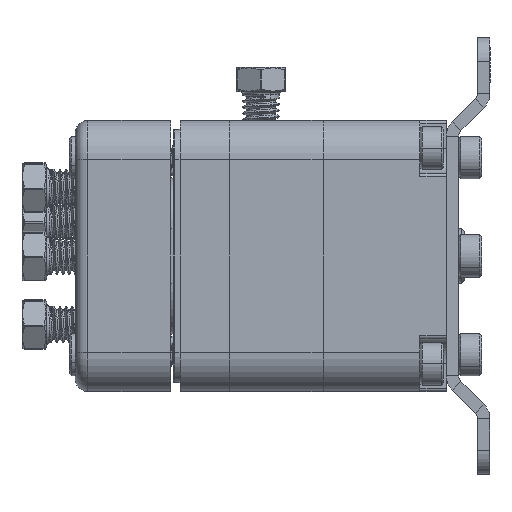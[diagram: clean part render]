
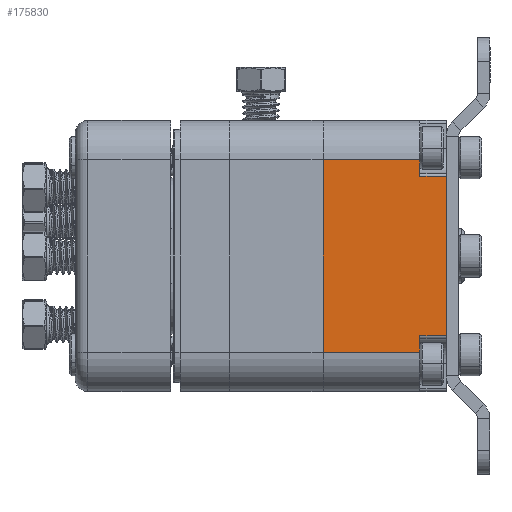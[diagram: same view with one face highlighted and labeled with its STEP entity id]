
A CAD part, left-side view. The second image highlights one B-rep face of the part: STEP entity #175830.
In plain terms, the highlighted planar face has unit normal (-1, 0, 0).
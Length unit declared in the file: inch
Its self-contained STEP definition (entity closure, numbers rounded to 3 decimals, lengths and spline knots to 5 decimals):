
#929 = CARTESIAN_POINT ( 'NONE',  ( -2.78125, -0.774, -0.4875 ) ) ;
#6849 = EDGE_CURVE ( 'Defeatured_0_628+Defeatured_0_619+Defeatured_0_604+Defeatured_0_635', #54828, #109684, #162797, .T. ) ;
#12913 = VERTEX_POINT ( 'NONE', #138600 ) ;
#15770 = CARTESIAN_POINT ( 'NONE',  ( -2.78125, -1.399, 0.4875 ) ) ;
#17844 = DIRECTION ( 'NONE',  ( 0., 1., 0. ) ) ;
#28853 = LINE ( 'NONE', #15770, #31670 ) ;
#29115 = DIRECTION ( 'NONE',  ( 0., 0., 1. ) ) ;
#31670 = VECTOR ( 'NONE', #48626, 39.37008 ) ;
#33818 = VERTEX_POINT ( 'NONE', #194200 ) ;
#38285 = LINE ( 'NONE', #138159, #41066 ) ;
#40847 = ORIENTED_EDGE ( 'NONE', *, *, #152698, .T. ) ;
#41066 = VECTOR ( 'NONE', #154378, 39.37008 ) ;
#42499 = CARTESIAN_POINT ( 'NONE',  ( -2.78125, -1.399, -0.6875 ) ) ;
#44136 = ORIENTED_EDGE ( 'NONE', *, *, #44265, .T. ) ;
#44265 = EDGE_CURVE ( 'Defeatured_0_628+Defeatured_0_641+Defeatured_0_635+Defeatured_0_634', #33818, #189119, #38285, .T. ) ;
#48626 = DIRECTION ( 'NONE',  ( 0., 1., 0. ) ) ;
#54828 = VERTEX_POINT ( 'NONE', #66883 ) ;
#64168 = VECTOR ( 'NONE', #133172, 39.37008 ) ;
#66883 = CARTESIAN_POINT ( 'NONE',  ( -2.78125, -1.26526, 0.40392 ) ) ;
#68018 = CARTESIAN_POINT ( 'NONE',  ( -2.78125, -1.399, -0.40392 ) ) ;
#74738 = ORIENTED_EDGE ( 'NONE', *, *, #168067, .T. ) ;
#76098 = FACE_OUTER_BOUND ( 'NONE', #182106, .T. ) ;
#79788 = CARTESIAN_POINT ( 'NONE',  ( -2.78125, -1.399, -0.4875 ) ) ;
#82380 = CARTESIAN_POINT ( 'NONE',  ( -2.78125, -1.399, -0.6875 ) ) ;
#82414 = LINE ( 'NONE', #42499, #82747 ) ;
#82747 = VECTOR ( 'NONE', #138905, 39.37008 ) ;
#83109 = CARTESIAN_POINT ( 'NONE',  ( -2.78125, -1.26526, -0.4875 ) ) ;
#91048 = AXIS2_PLACEMENT_3D ( 'NONE', #82380, #128526, #29115 ) ;
#95982 = DIRECTION ( 'NONE',  ( 0., -1., 0. ) ) ;
#97127 = VERTEX_POINT ( 'NONE', #172516 ) ;
#97297 = ORIENTED_EDGE ( 'NONE', *, *, #6849, .T. ) ;
#100791 = VECTOR ( 'NONE', #17844, 39.37008 ) ;
#106387 = VECTOR ( 'NONE', #95982, 39.37008 ) ;
#109684 = VERTEX_POINT ( 'NONE', #144880 ) ;
#110861 = DIRECTION ( 'NONE',  ( 0., 0., 1. ) ) ;
#111565 = EDGE_CURVE ( 'Defeatured_0_628+Defeatured_0_634+Defeatured_0_641+Defeatured_0_618', #189119, #113922, #177255, .T. ) ;
#112229 = EDGE_CURVE ( 'Defeatured_0_605+Defeatured_0_628+Defeatured_0_567+Defeatured_0_566', #143675, #97127, #82414, .T. ) ;
#113907 = VECTOR ( 'NONE', #110861, 39.37008 ) ;
#113922 = VERTEX_POINT ( 'NONE', #83109 ) ;
#118769 = ORIENTED_EDGE ( 'NONE', *, *, #112229, .F. ) ;
#123406 = EDGE_CURVE ( 'Defeatured_0_628+Defeatured_0_635+Defeatured_0_619+Defeatured_0_641', #109684, #33818, #28853, .T. ) ;
#125741 = CARTESIAN_POINT ( 'NONE',  ( -2.78125, -1.26526, 0. ) ) ;
#126523 = EDGE_CURVE ( 'Defeatured_0_628+Defeatured_0_618+Defeatured_0_634+Defeatured_0_603', #113922, #12913, #183277, .T. ) ;
#128526 = DIRECTION ( 'NONE',  ( 1., 0., 0. ) ) ;
#131441 = ORIENTED_EDGE ( 'NONE', *, *, #123406, .T. ) ;
#132954 = CARTESIAN_POINT ( 'NONE',  ( -2.78125, -1.399, 0.40392 ) ) ;
#133172 = DIRECTION ( 'NONE',  ( 0., -1., 0. ) ) ;
#138159 = CARTESIAN_POINT ( 'NONE',  ( -2.78125, -0.774, -0.6875 ) ) ;
#138600 = CARTESIAN_POINT ( 'NONE',  ( -2.78125, -1.26526, -0.40392 ) ) ;
#138905 = DIRECTION ( 'NONE',  ( 0., 0., -1. ) ) ;
#143675 = VERTEX_POINT ( 'NONE', #132954 ) ;
#144880 = CARTESIAN_POINT ( 'NONE',  ( -2.78125, -1.26526, 0.4875 ) ) ;
#152698 = EDGE_CURVE ( 'Defeatured_0_628+Defeatured_0_603+Defeatured_0_618+Defeatured_0_605', #12913, #97127, #206791, .T. ) ;
#154378 = DIRECTION ( 'NONE',  ( 0., 0., -1. ) ) ;
#162797 = LINE ( 'NONE', #125741, #164499 ) ;
#164499 = VECTOR ( 'NONE', #195040, 39.37008 ) ;
#165852 = CARTESIAN_POINT ( 'NONE',  ( -2.78125, -1.26526, 0.40392 ) ) ;
#168067 = EDGE_CURVE ( 'Defeatured_0_628+Defeatured_0_604+Defeatured_0_605+Defeatured_0_619', #143675, #54828, #170599, .T. ) ;
#170599 = LINE ( 'NONE', #165852, #100791 ) ;
#172516 = CARTESIAN_POINT ( 'NONE',  ( -2.78125, -1.399, -0.40392 ) ) ;
#175830 = ADVANCED_FACE ( 'Defeatured_0_628', ( #76098 ), #193707, .F. ) ;
#177255 = LINE ( 'NONE', #79788, #106387 ) ;
#182106 = EDGE_LOOP ( 'NONE', ( #118769, #74738, #97297, #131441, #44136, #210086, #196016, #40847 ) ) ;
#183277 = LINE ( 'NONE', #208537, #113907 ) ;
#189119 = VERTEX_POINT ( 'NONE', #929 ) ;
#193707 = PLANE ( 'NONE',  #91048 ) ;
#194200 = CARTESIAN_POINT ( 'NONE',  ( -2.78125, -0.774, 0.4875 ) ) ;
#195040 = DIRECTION ( 'NONE',  ( 0., 0., 1. ) ) ;
#196016 = ORIENTED_EDGE ( 'NONE', *, *, #126523, .T. ) ;
#206791 = LINE ( 'NONE', #68018, #64168 ) ;
#208537 = CARTESIAN_POINT ( 'NONE',  ( -2.78125, -1.26526, 0. ) ) ;
#210086 = ORIENTED_EDGE ( 'NONE', *, *, #111565, .T. ) ;
